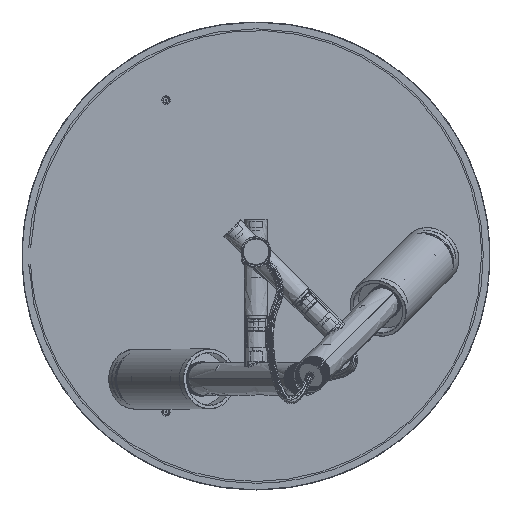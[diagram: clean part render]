
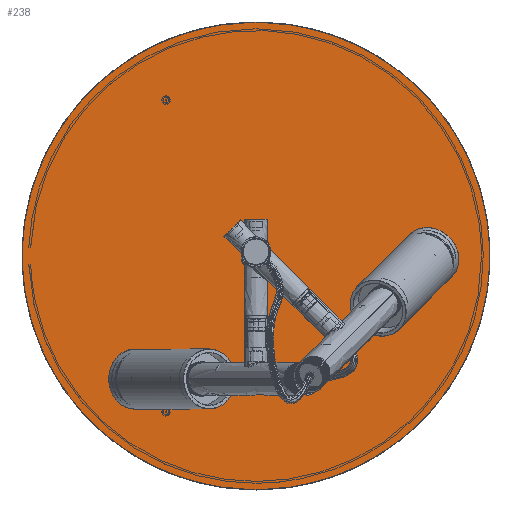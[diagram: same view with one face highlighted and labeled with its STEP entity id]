
A CAD part, top view. The second image highlights one B-rep face of the part: STEP entity #238.
In plain terms, the highlighted planar face has unit normal (0, 0, 1) as drawn and (0, 1, 0) by its records, which use the part's own axes.
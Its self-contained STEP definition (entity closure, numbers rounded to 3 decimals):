
#145=FACE_BOUND('',#1183,.T.);
#238=ADVANCED_FACE('',(#710,#145),#6923,.T.);
#710=FACE_OUTER_BOUND('',#1182,.T.);
#1182=EDGE_LOOP('',(#1753,#1754));
#1183=EDGE_LOOP('',(#1755,#1756));
#1753=ORIENTED_EDGE('',*,*,#3981,.F.);
#1754=ORIENTED_EDGE('',*,*,#3985,.F.);
#1755=ORIENTED_EDGE('',*,*,#3988,.T.);
#1756=ORIENTED_EDGE('',*,*,#3979,.T.);
#3979=EDGE_CURVE('',#6216,#6215,#5612,.T.);
#3981=EDGE_CURVE('',#6217,#6218,#5613,.T.);
#3985=EDGE_CURVE('',#6218,#6217,#5615,.T.);
#3988=EDGE_CURVE('',#6215,#6216,#5618,.T.);
#5612=(
BOUNDED_CURVE()
B_SPLINE_CURVE(2,(#8053,#8054,#8055,#8056,#8057),.UNSPECIFIED.,.F.,.F.)
B_SPLINE_CURVE_WITH_KNOTS((3,2,3),(-20.577,-10.289,
0.),.UNSPECIFIED.)
CURVE()
GEOMETRIC_REPRESENTATION_ITEM()
RATIONAL_B_SPLINE_CURVE((1.,0.707,1.,0.707,1.))
REPRESENTATION_ITEM('')
);
#5613=(
BOUNDED_CURVE()
B_SPLINE_CURVE(2,(#8060,#8061,#8062,#8063,#8064),.UNSPECIFIED.,.F.,.F.)
B_SPLINE_CURVE_WITH_KNOTS((3,2,3),(0.,245.044,490.088),
 .UNSPECIFIED.)
CURVE()
GEOMETRIC_REPRESENTATION_ITEM()
RATIONAL_B_SPLINE_CURVE((1.,0.707,1.,0.707,1.))
REPRESENTATION_ITEM('')
);
#5615=(
BOUNDED_CURVE()
B_SPLINE_CURVE(2,(#8074,#8075,#8076,#8077,#8078),.UNSPECIFIED.,.F.,.F.)
B_SPLINE_CURVE_WITH_KNOTS((3,2,3),(0.,245.044,490.088),
 .UNSPECIFIED.)
CURVE()
GEOMETRIC_REPRESENTATION_ITEM()
RATIONAL_B_SPLINE_CURVE((1.,0.707,1.,0.707,1.))
REPRESENTATION_ITEM('')
);
#5618=(
BOUNDED_CURVE()
B_SPLINE_CURVE(2,(#8089,#8090,#8091,#8092,#8093),.UNSPECIFIED.,.F.,.F.)
B_SPLINE_CURVE_WITH_KNOTS((3,2,3),(-20.577,-10.289,
0.),.UNSPECIFIED.)
CURVE()
GEOMETRIC_REPRESENTATION_ITEM()
RATIONAL_B_SPLINE_CURVE((1.,0.707,1.,0.707,1.))
REPRESENTATION_ITEM('')
);
#6215=VERTEX_POINT('',#8040);
#6216=VERTEX_POINT('',#8041);
#6217=VERTEX_POINT('',#8042);
#6218=VERTEX_POINT('',#8043);
#6923=PLANE('',#7623);
#7623=AXIS2_PLACEMENT_3D('',#8018,#7778,$);
#7778=DIRECTION('',(0.,1.,0.));
#8018=CARTESIAN_POINT('',(-187.2,3.,-187.2));
#8040=CARTESIAN_POINT('',(0.,3.,-6.55));
#8041=CARTESIAN_POINT('',(0.,3.,6.55));
#8042=CARTESIAN_POINT('',(0.,3.,-156.));
#8043=CARTESIAN_POINT('',(0.,3.,156.));
#8053=CARTESIAN_POINT('',(0.,3.,6.55));
#8054=CARTESIAN_POINT('',(-6.55,3.,6.55));
#8055=CARTESIAN_POINT('',(-6.55,3.,0.));
#8056=CARTESIAN_POINT('',(-6.55,3.,-6.55));
#8057=CARTESIAN_POINT('',(0.,3.,-6.55));
#8060=CARTESIAN_POINT('',(0.,3.,-156.));
#8061=CARTESIAN_POINT('',(156.,3.,-156.));
#8062=CARTESIAN_POINT('',(156.,3.,0.));
#8063=CARTESIAN_POINT('',(156.,3.,156.));
#8064=CARTESIAN_POINT('',(0.,3.,156.));
#8074=CARTESIAN_POINT('',(0.,3.,156.));
#8075=CARTESIAN_POINT('',(-156.,3.,156.));
#8076=CARTESIAN_POINT('',(-156.,3.,0.));
#8077=CARTESIAN_POINT('',(-156.,3.,-156.));
#8078=CARTESIAN_POINT('',(0.,3.,-156.));
#8089=CARTESIAN_POINT('',(0.,3.,-6.55));
#8090=CARTESIAN_POINT('',(6.55,3.,-6.55));
#8091=CARTESIAN_POINT('',(6.55,3.,0.));
#8092=CARTESIAN_POINT('',(6.55,3.,6.55));
#8093=CARTESIAN_POINT('',(0.,3.,6.55));
